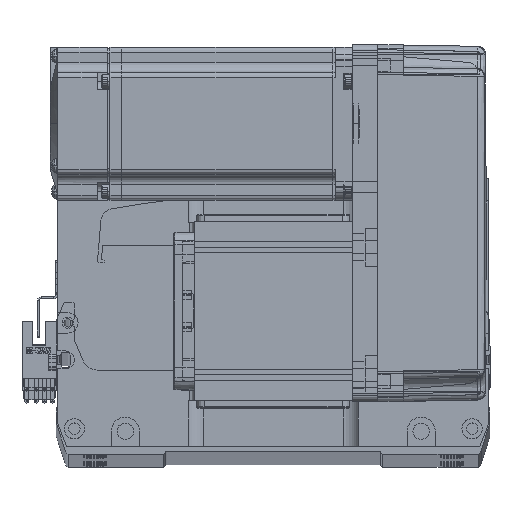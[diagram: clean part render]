
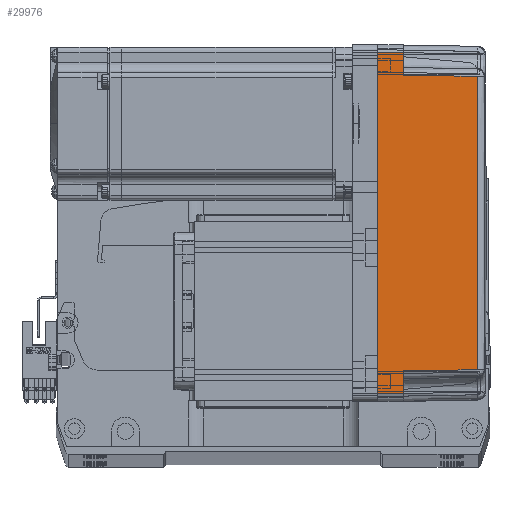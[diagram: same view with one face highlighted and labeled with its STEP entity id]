
A CAD part, top view. The second image highlights one B-rep face of the part: STEP entity #29976.
In plain terms, the highlighted planar face has unit normal (0.018, 0, 1) as drawn and (0, -1, 0.017) by its records, which use the part's own axes.
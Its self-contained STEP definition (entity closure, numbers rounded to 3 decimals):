
#86 = DIRECTION ( 'NONE',  ( -1., 0., 0. ) ) ;
#668 = CARTESIAN_POINT ( 'NONE',  ( 57.495, -35.32, 38.985 ) ) ;
#1843 = EDGE_CURVE ( 'NONE', #1947, #19348, #57243, .T. ) ;
#1947 = VERTEX_POINT ( 'NONE', #29988 ) ;
#2422 = VECTOR ( 'NONE', #61659, 1000. ) ;
#2719 = LINE ( 'NONE', #42604, #3528 ) ;
#2926 = CARTESIAN_POINT ( 'NONE',  ( 67., -36., 0. ) ) ;
#3290 = ORIENTED_EDGE ( 'NONE', *, *, #1843, .T. ) ;
#3528 = VECTOR ( 'NONE', #64406, 1000. ) ;
#3941 = DIRECTION ( 'NONE',  ( -1., 0., 0. ) ) ;
#4095 = VECTOR ( 'NONE', #36235, 1000. ) ;
#4339 = CARTESIAN_POINT ( 'NONE',  ( 58., -35.825, 10. ) ) ;
#5466 = DIRECTION ( 'NONE',  ( 0., -0.017, -1. ) ) ;
#6749 = CARTESIAN_POINT ( 'NONE',  ( -58., -35.825, 10. ) ) ;
#7119 = AXIS2_PLACEMENT_3D ( 'NONE', #71009, #65768, #5466 ) ;
#7787 = EDGE_CURVE ( 'NONE', #53066, #39668, #68180, .T. ) ;
#8232 = ORIENTED_EDGE ( 'NONE', *, *, #57118, .T. ) ;
#11470 = LINE ( 'NONE', #41945, #30243 ) ;
#12095 = ORIENTED_EDGE ( 'NONE', *, *, #23738, .T. ) ;
#12396 = PLANE ( 'NONE',  #7119 ) ;
#16120 = B_SPLINE_CURVE_WITH_KNOTS ( 'NONE', 3,
 ( #668, #40076, #34541, #28818 ),
 .UNSPECIFIED., .F., .F.,
 ( 4, 4 ),
 ( 0., 1. ),
 .UNSPECIFIED. ) ;
#16896 = LINE ( 'NONE', #18998, #4095 ) ;
#17026 = DIRECTION ( 'NONE',  ( -1., 0., 0. ) ) ;
#17217 = EDGE_CURVE ( 'NONE', #46662, #39572, #16896, .T. ) ;
#18214 = VERTEX_POINT ( 'NONE', #46792 ) ;
#18998 = CARTESIAN_POINT ( 'NONE',  ( 58., -35.825, 10. ) ) ;
#19348 = VERTEX_POINT ( 'NONE', #6749 ) ;
#19995 = CARTESIAN_POINT ( 'NONE',  ( -67., -36., 0. ) ) ;
#20166 = ORIENTED_EDGE ( 'NONE', *, *, #62188, .T. ) ;
#21842 = VECTOR ( 'NONE', #86, 1000. ) ;
#22097 = ORIENTED_EDGE ( 'NONE', *, *, #44757, .F. ) ;
#23738 = EDGE_CURVE ( 'NONE', #19348, #36839, #24980, .T. ) ;
#24980 = LINE ( 'NONE', #34000, #43062 ) ;
#28818 = CARTESIAN_POINT ( 'NONE',  ( -57.495, -35.32, 38.985 ) ) ;
#29976 = ADVANCED_FACE ( 'NONE', ( #34956 ), #12396, .T. ) ;
#29988 = CARTESIAN_POINT ( 'NONE',  ( -57.495, -35.32, 38.985 ) ) ;
#30243 = VECTOR ( 'NONE', #3941, 1000. ) ;
#30380 = DIRECTION ( 'NONE',  ( -0.017, 0.017, 1. ) ) ;
#30551 = EDGE_LOOP ( 'NONE', ( #8232, #20166, #49053, #43856, #3290, #12095, #22097, #49057 ) ) ;
#31597 = CARTESIAN_POINT ( 'NONE',  ( 0., -36., 0. ) ) ;
#34000 = CARTESIAN_POINT ( 'NONE',  ( 70., -35.825, 10. ) ) ;
#34541 = CARTESIAN_POINT ( 'NONE',  ( -19.165, -35.316, 39.181 ) ) ;
#34956 = FACE_OUTER_BOUND ( 'NONE', #30551, .T. ) ;
#36235 = DIRECTION ( 'NONE',  ( -0.017, 0.017, 1. ) ) ;
#36839 = VERTEX_POINT ( 'NONE', #56377 ) ;
#39572 = VERTEX_POINT ( 'NONE', #45892 ) ;
#39668 = VERTEX_POINT ( 'NONE', #19995 ) ;
#40076 = CARTESIAN_POINT ( 'NONE',  ( 19.165, -35.316, 39.181 ) ) ;
#41945 = CARTESIAN_POINT ( 'NONE',  ( 70., -35.825, 10. ) ) ;
#42604 = CARTESIAN_POINT ( 'NONE',  ( -66.959, -35.958, 2.39 ) ) ;
#43062 = VECTOR ( 'NONE', #17026, 1000. ) ;
#43856 = ORIENTED_EDGE ( 'NONE', *, *, #61914, .T. ) ;
#44757 = EDGE_CURVE ( 'NONE', #39668, #36839, #2719, .T. ) ;
#45892 = CARTESIAN_POINT ( 'NONE',  ( 57.495, -35.32, 38.985 ) ) ;
#46662 = VERTEX_POINT ( 'NONE', #4339 ) ;
#46792 = CARTESIAN_POINT ( 'NONE',  ( 66.826, -35.825, 10. ) ) ;
#49053 = ORIENTED_EDGE ( 'NONE', *, *, #17217, .T. ) ;
#49057 = ORIENTED_EDGE ( 'NONE', *, *, #7787, .F. ) ;
#51972 = VECTOR ( 'NONE', #30380, 1000. ) ;
#53066 = VERTEX_POINT ( 'NONE', #65880 ) ;
#53715 = LINE ( 'NONE', #2926, #51972 ) ;
#55728 = CARTESIAN_POINT ( 'NONE',  ( -57.495, -35.32, 38.985 ) ) ;
#56377 = CARTESIAN_POINT ( 'NONE',  ( -66.826, -35.825, 10. ) ) ;
#57118 = EDGE_CURVE ( 'NONE', #53066, #18214, #53715, .T. ) ;
#57243 = LINE ( 'NONE', #55728, #2422 ) ;
#61659 = DIRECTION ( 'NONE',  ( -0.017, -0.017, -1. ) ) ;
#61914 = EDGE_CURVE ( 'NONE', #39572, #1947, #16120, .T. ) ;
#62188 = EDGE_CURVE ( 'NONE', #18214, #46662, #11470, .T. ) ;
#64406 = DIRECTION ( 'NONE',  ( 0.017, 0.017, 1. ) ) ;
#65768 = DIRECTION ( 'NONE',  ( 0., -1., 0.017 ) ) ;
#65880 = CARTESIAN_POINT ( 'NONE',  ( 67., -36., 0. ) ) ;
#68180 = LINE ( 'NONE', #31597, #21842 ) ;
#71009 = CARTESIAN_POINT ( 'NONE',  ( 70., -36., 0. ) ) ;
